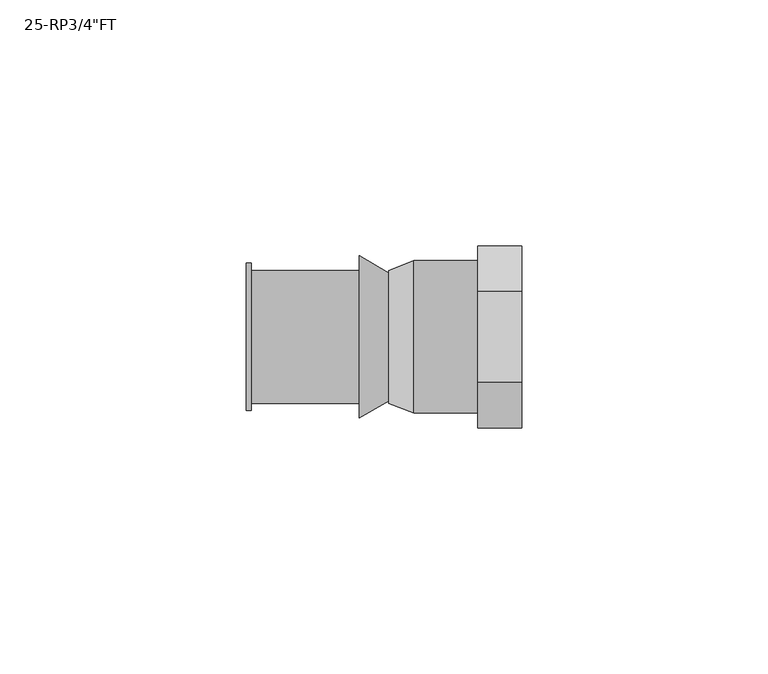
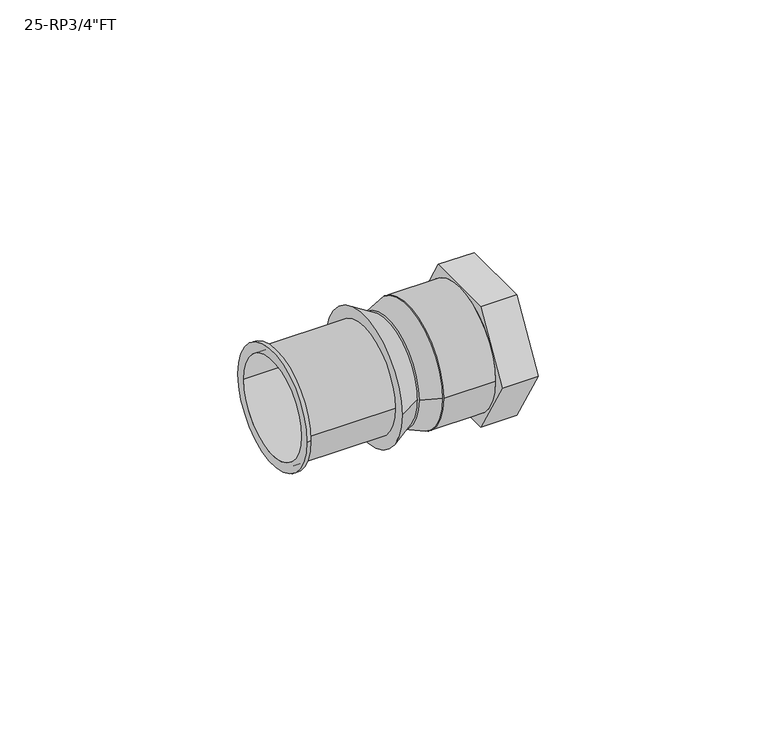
"""IFC4 building model written with IfcOpenShell, lengths in millimetres: pipe fitting geometry."""

from ifc_helpers import new_model, si_unit, frame, origin, place, context, project, spatial, polyline, circle_curve, source, transform, mapped, element, save
from ifc_brep_helpers import plane_surface, cylinder_surface, revolved_surface, advanced_brep


def pipe_fitting_d50d454a(model_context):
    return source(origin(), model_context, "Body", "AdvancedBrep", [
        advanced_brep(
        [(1.0, -15.5, 0.0), (1.0, 15.5, 0.0), (1.0, -12.0, 0.0), (1.0, 12.0, 0.0), (23.0, -18.4752086, 0.0), (23.0, -9.2376043, -16.0), (23.0, 9.2376043, -16.0), (23.0, 18.4752086, 0.0), (23.0, 9.2376043, 16.0), (23.0, -9.2376043, 16.0), (23.0, -12.0, 0.0), (23.0, 12.0, 0.0), (14.0, -15.5, 0.0), (14.0, 15.5, 0.0), (14.0, -12.0, 0.0), (14.0, 12.0, 0.0), (14.0, -18.4752086, 0.0), (14.0, -9.2376043, 16.0), (14.0, 9.2376043, 16.0), (14.0, 18.4752086, 0.0), (14.0, 9.2376043, -16.0), (14.0, -9.2376043, -16.0)],
        [
            (0, 1, circle_curve(frame((1.0, 0.0, 0.0), z_axis=(-1.0, 0.0, 0.0), x_axis=(0.0, 1.0, 0.0)), 15.5)),
            (1, 0, circle_curve(frame((1.0, 0.0, 0.0), z_axis=(-1.0, 0.0, 0.0), x_axis=(0.0, 1.0, 0.0)), 15.5)),
            (2, 3, circle_curve(frame((1.0, 0.0, 0.0), z_axis=(1.0, 0.0, 0.0), x_axis=(0.0, 1.0, 0.0)), 12.0)),
            (3, 2, circle_curve(frame((1.0, 0.0, 0.0), z_axis=(1.0, 0.0, 0.0), x_axis=(0.0, 1.0, 0.0)), 12.0)),
            (4, 5),
            (5, 6),
            (6, 7),
            (7, 8),
            (8, 9),
            (9, 4),
            (10, 11, circle_curve(frame((23.0, 0.0, 0.0), z_axis=(-1.0, 0.0, 0.0), x_axis=(0.0, 1.0, 0.0)), 12.0)),
            (11, 10, circle_curve(frame((23.0, 0.0, 0.0), z_axis=(-1.0, 0.0, 0.0), x_axis=(0.0, 1.0, 0.0)), 12.0)),
            (0, 12),
            (12, 13, circle_curve(frame((14.0, 0.0, 0.0), z_axis=(-1.0, 0.0, 0.0), x_axis=(0.0, 1.0, 0.0)), 15.5)),
            (13, 1),
            (13, 12, circle_curve(frame((14.0, 0.0, 0.0), z_axis=(-1.0, 0.0, 0.0), x_axis=(0.0, 1.0, 0.0)), 15.5)),
            (2, 14),
            (14, 10),
            (11, 15),
            (15, 3),
            (16, 17),
            (17, 18),
            (18, 19),
            (19, 20),
            (20, 21),
            (21, 16),
            (16, 4),
            (9, 17),
            (8, 18),
            (7, 19),
            (6, 20),
            (5, 21),
        ],
        [
            plane_surface(frame((1.0, 0.0, 0.0), z_axis=(-1.0, 0.0, 0.0), x_axis=(0.0, 0.0, 1.0))),
            plane_surface(frame((23.0, 0.0, 0.0), z_axis=(1.0, 0.0, 0.0), x_axis=(0.0, 0.0, 1.0))),
            cylinder_surface(frame((1.0, 0.0, 0.0), z_axis=(-1.0, 0.0, 0.0), x_axis=(0.0, 1.0, 0.0)), 15.5),
            revolved_surface(polyline([(23.0, 12.0, 0.0), (1.0, 12.0, 0.0)]), (1.0, 0.0, 0.0), (1.0, 0.0, 0.0)),
            plane_surface(frame((14.0, 0.0, 0.0), z_axis=(-1.0, 0.0, 0.0), x_axis=(0.0, 0.0, 1.0))),
            plane_surface(frame((14.0, -18.4752086, 0.0), z_axis=(0.0, -0.8660254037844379, 0.5000000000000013), x_axis=(1.0, 0.0, 0.0))),
            plane_surface(frame((14.0, -9.2376043, 16.0), z_axis=(0.0, 0.0, 1.0), x_axis=(1.0, 0.0, 0.0))),
            plane_surface(frame((14.0, 9.2376043, 16.0), z_axis=(0.0, 0.8660254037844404, 0.49999999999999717), x_axis=(1.0, 0.0, 0.0))),
            plane_surface(frame((14.0, 18.4752086, 0.0), z_axis=(0.0, 0.8660254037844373, -0.5000000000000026), x_axis=(1.0, 0.0, 0.0))),
            plane_surface(frame((14.0, 9.2376043, -16.0), z_axis=(0.0, 0.0, -1.0), x_axis=(1.0, 0.0, 0.0))),
            plane_surface(frame((14.0, -9.2376043, -16.0), z_axis=(0.0, -0.8660254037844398, -0.49999999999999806), x_axis=(1.0, 0.0, 0.0))),
        ],
        [
            (0, [[1, 2], [3, 4]]),
            (1, [[5, 6, 7, 8, 9, 10], [11, 12]]),
            (2, [[-1, 13, 14, 15]]),
            (2, [[-2, -15, 16, -13]]),
            (3, [[-3, 17, 18, -12, 19, 20]]),
            (3, [[-4, -20, -19, -11, -18, -17]]),
            (4, [[21, 22, 23, 24, 25, 26], [-14, -16]]),
            (5, [[-21, 27, -10, 28]]),
            (6, [[-22, -28, -9, 29]]),
            (7, [[-23, -29, -8, 30]]),
            (8, [[-24, -30, -7, 31]]),
            (9, [[-25, -31, -6, 32]]),
            (10, [[-26, -32, -5, -27]]),
        ],
    ),
        advanced_brep(
        [(1.0, -15.5, 0.0), (1.0, 15.5, 0.0), (-4.0, -13.5, 0.0), (-4.0, 13.5, 0.0)],
        [
            (0, 1, circle_curve(frame((1.0, 0.0, 0.0), z_axis=(1.0, 0.0, 0.0), x_axis=(0.0, -1.0, 0.0)), 15.5)),
            (1, 0, circle_curve(frame((1.0, 0.0, 0.0), z_axis=(1.0, 0.0, 0.0), x_axis=(0.0, 1.0, 0.0)), 15.5)),
            (2, 3, circle_curve(frame((-4.0, 0.0, 0.0), z_axis=(-1.0, 0.0, 0.0), x_axis=(0.0, 1.0, 0.0)), 13.5)),
            (3, 2, circle_curve(frame((-4.0, 0.0, 0.0), z_axis=(-1.0, 0.0, 0.0), x_axis=(0.0, -1.0, 0.0)), 13.5)),
            (3, 1),
            (0, 2),
        ],
        [
            plane_surface(frame((1.0, 0.0, 0.0), z_axis=(1.0, 0.0, 0.0), x_axis=(0.0, 0.0, -1.0))),
            plane_surface(frame((-4.0, 0.0, 0.0), z_axis=(-1.0, 0.0, 0.0), x_axis=(0.0, 0.0, -1.0))),
            revolved_surface(polyline([(-4.0, 13.5, 0.0), (1.0, 15.5, 0.0)]), (-37.75, 0.0, 0.0), (1.0, 0.0, 0.0)),
            revolved_surface(polyline([(-4.0, -13.5, 0.0), (1.0, -15.5, 0.0)]), (-37.75, 0.0, 0.0), (1.0, 0.0, 0.0)),
        ],
        [
            (0, [[1, 2]]),
            (1, [[3, 4]]),
            (2, [[-4, 5, -1, 6]]),
            (3, [[-3, -6, -2, -5]]),
        ],
    ),
        advanced_brep(
        [(-33.0, -15.0, 0.0), (-33.0, 15.0, 0.0), (-33.0, -12.5, 0.0), (-33.0, 12.5, 0.0), (-10.0, -13.5, 0.0), (-10.0, 13.5, 0.0), (-10.0, -12.5, 0.0), (-10.0, 12.5, 0.0), (-32.0, 13.5, 0.0), (-32.0, -13.5, 0.0), (-32.0, -15.0, 0.0), (-32.0, 15.0, 0.0)],
        [
            (0, 1, circle_curve(frame((-33.0, 0.0, 0.0), z_axis=(-1.0, 0.0, 0.0), x_axis=(0.0, 1.0, 0.0)), 15.0)),
            (1, 0, circle_curve(frame((-33.0, 0.0, 0.0), z_axis=(-1.0, 0.0, 0.0), x_axis=(0.0, 1.0, 0.0)), 15.0)),
            (2, 3, circle_curve(frame((-33.0, 0.0, 0.0), z_axis=(1.0, 0.0, 0.0), x_axis=(0.0, 1.0, 0.0)), 12.5)),
            (3, 2, circle_curve(frame((-33.0, 0.0, 0.0), z_axis=(1.0, 0.0, 0.0), x_axis=(0.0, 1.0, 0.0)), 12.5)),
            (4, 5, circle_curve(frame((-10.0, 0.0, 0.0), z_axis=(1.0, 0.0, 0.0), x_axis=(0.0, 1.0, 0.0)), 13.5)),
            (5, 4, circle_curve(frame((-10.0, 0.0, 0.0), z_axis=(1.0, 0.0, 0.0), x_axis=(0.0, 1.0, 0.0)), 13.5)),
            (6, 7, circle_curve(frame((-10.0, 0.0, 0.0), z_axis=(-1.0, 0.0, 0.0), x_axis=(0.0, 1.0, 0.0)), 12.5)),
            (7, 6, circle_curve(frame((-10.0, 0.0, 0.0), z_axis=(-1.0, 0.0, 0.0), x_axis=(0.0, 1.0, 0.0)), 12.5)),
            (2, 6),
            (7, 3),
            (5, 8),
            (8, 9, circle_curve(frame((-32.0, 0.0, 0.0), z_axis=(1.0, 0.0, 0.0), x_axis=(0.0, 1.0, 0.0)), 13.5)),
            (9, 4),
            (9, 8, circle_curve(frame((-32.0, 0.0, 0.0), z_axis=(1.0, 0.0, 0.0), x_axis=(0.0, 1.0, 0.0)), 13.5)),
            (10, 11, circle_curve(frame((-32.0, 0.0, 0.0), z_axis=(1.0, 0.0, 0.0), x_axis=(0.0, 1.0, 0.0)), 15.0)),
            (11, 10, circle_curve(frame((-32.0, 0.0, 0.0), z_axis=(1.0, 0.0, 0.0), x_axis=(0.0, 1.0, 0.0)), 15.0)),
            (0, 10),
            (11, 1),
        ],
        [
            plane_surface(frame((-33.0, 0.0, 0.0), z_axis=(-1.0, 0.0, 0.0), x_axis=(0.0, 0.0, 1.0))),
            plane_surface(frame((-10.0, 0.0, 0.0), z_axis=(1.0, 0.0, 0.0), x_axis=(0.0, 0.0, 1.0))),
            revolved_surface(polyline([(-10.0, 12.5, 0.0), (-33.0, 12.5, 0.0)]), (-33.0, 0.0, 0.0), (1.0, 0.0, 0.0)),
            cylinder_surface(frame((-33.0, 0.0, 0.0), z_axis=(-1.0, 0.0, 0.0), x_axis=(0.0, 1.0, 0.0)), 13.5),
            plane_surface(frame((-32.0, 0.0, 0.0), z_axis=(1.0, 0.0, 0.0), x_axis=(0.0, 0.0, 1.0))),
            cylinder_surface(frame((-33.0, 0.0, 0.0), z_axis=(-1.0, 0.0, 0.0), x_axis=(0.0, 1.0, 0.0)), 15.0),
        ],
        [
            (0, [[1, 2], [3, 4]]),
            (1, [[5, 6], [7, 8]]),
            (2, [[-3, 9, -8, 10]]),
            (2, [[-4, -10, -7, -9]]),
            (3, [[-6, 11, 12, 13]]),
            (3, [[-5, -13, 14, -11]]),
            (4, [[15, 16], [-12, -14]]),
            (5, [[-1, 17, -16, 18]]),
            (5, [[-2, -18, -15, -17]]),
        ],
    ),
        advanced_brep(
        [(-4.0, -13.0, 0.0), (-4.0, 13.0, 0.0), (-4.0, 12.5, 0.0), (-4.0, -12.5, 0.0), (-10.0, -16.5, 0.0), (-10.0, 16.5, 0.0), (-10.0, -12.5, 0.0), (-10.0, 12.5, 0.0)],
        [
            (0, 1, circle_curve(frame((-4.0, 0.0, 0.0), z_axis=(1.0, 0.0, 0.0), x_axis=(0.0, -1.0, 0.0)), 13.0)),
            (1, 0, circle_curve(frame((-4.0, 0.0, 0.0), z_axis=(1.0, 0.0, 0.0), x_axis=(0.0, 1.0, 0.0)), 13.0)),
            (2, 3, circle_curve(frame((-4.0, 0.0, 0.0), z_axis=(-1.0, 0.0, 0.0), x_axis=(0.0, 1.0, 0.0)), 12.5)),
            (3, 2, circle_curve(frame((-4.0, 0.0, 0.0), z_axis=(-1.0, 0.0, 0.0), x_axis=(0.0, 1.0, 0.0)), 12.5)),
            (4, 5, circle_curve(frame((-10.0, 0.0, 0.0), z_axis=(-1.0, 0.0, 0.0), x_axis=(0.0, 1.0, 0.0)), 16.5)),
            (5, 4, circle_curve(frame((-10.0, 0.0, 0.0), z_axis=(-1.0, 0.0, 0.0), x_axis=(0.0, -1.0, 0.0)), 16.5)),
            (6, 7, circle_curve(frame((-10.0, 0.0, 0.0), z_axis=(1.0, 0.0, 0.0), x_axis=(0.0, 1.0, 0.0)), 12.5)),
            (7, 6, circle_curve(frame((-10.0, 0.0, 0.0), z_axis=(1.0, 0.0, 0.0), x_axis=(0.0, 1.0, 0.0)), 12.5)),
            (0, 4),
            (5, 1),
            (2, 7),
            (6, 3),
        ],
        [
            plane_surface(frame((-4.0, 0.0, 0.0), z_axis=(1.0, 0.0, 0.0), x_axis=(0.0, 0.0, -1.0))),
            plane_surface(frame((-10.0, 0.0, 0.0), z_axis=(-1.0, 0.0, 0.0), x_axis=(0.0, 0.0, -1.0))),
            revolved_surface(polyline([(-4.0, -13.000000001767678, 0.0), (-10.0, -16.5, 0.0)]), (18.2857143, 0.0, 0.0), (-1.0, 0.0, 0.0)),
            revolved_surface(polyline([(-4.0, 13.000000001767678, 0.0), (-10.0, 16.5, 0.0)]), (18.2857143, 0.0, 0.0), (-1.0, 0.0, 0.0)),
            revolved_surface(polyline([(-4.0, 12.5, 0.0), (-10.0, 12.5, 0.0)]), (-10.0, 0.0, 0.0), (1.0, 0.0, 0.0)),
        ],
        [
            (0, [[1, 2], [3, 4]]),
            (1, [[5, 6], [7, 8]]),
            (2, [[-1, 9, -6, 10]]),
            (3, [[-2, -10, -5, -9]]),
            (4, [[11, -7, 12, -3]]),
            (4, [[-11, -4, -12, -8]]),
        ],
    ),
    ])


if __name__ == "__main__":
    model = new_model("IFC4")
    model_context = context("Model", 3, world=origin())
    ifc_project = project(units=[si_unit("LENGTHUNIT", "METRE", prefix="MILLI")], contexts=[model_context])
    site = spatial("IfcSite", under=ifc_project)
    building = spatial("IfcBuilding", under=site)
    placement = place(None, origin())
    pipe_fitting_shape = pipe_fitting_d50d454a(model_context)
    element("IfcPipeFitting", 1, ObjectType="SuperPipe_AdapterFT_MAX_RP : 25-RP3/4\"FT", at=placement, inside=building, context=model_context, shape_type="MappedRepresentation", body=[
        mapped(pipe_fitting_shape, transform((0.0, 0.0, 0.0), x_axis=(1.0, 0.0, 0.0), y_axis=(0.0, 1.0, 0.0), z_axis=(0.0, 0.0, 1.0))),
    ])
    save(model, "model.ifc")
